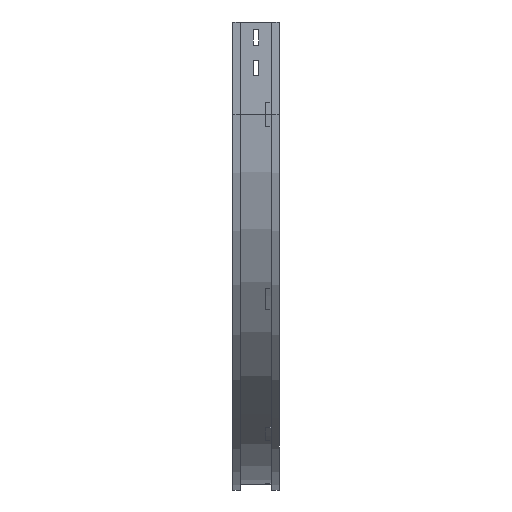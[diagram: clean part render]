
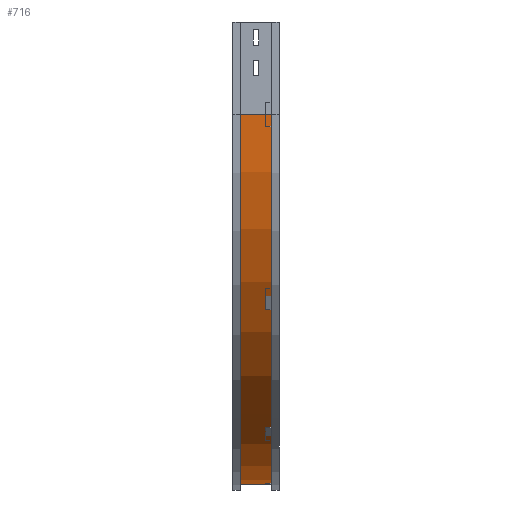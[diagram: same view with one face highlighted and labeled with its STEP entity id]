
A CAD part, left-side view. The second image highlights one B-rep face of the part: STEP entity #716.
In plain terms, the highlighted cylindrical face has radius 600 mm (diameter 1200 mm), a partial arc.
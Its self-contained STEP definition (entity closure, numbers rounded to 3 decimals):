
#25 = CARTESIAN_POINT ( 'NONE',  ( 609., 63., -750. ) ) ;
#185 = ORIENTED_EDGE ( 'NONE', *, *, #3232, .T. ) ;
#192 = CARTESIAN_POINT ( 'NONE',  ( 609., 12., -150. ) ) ;
#214 = DIRECTION ( 'NONE',  ( 0., 0., -1. ) ) ;
#231 = DIRECTION ( 'NONE',  ( 0., -1., 0. ) ) ;
#250 = CIRCLE ( 'NONE', #2157, 600. ) ;
#298 = CIRCLE ( 'NONE', #1939, 600. ) ;
#353 = CARTESIAN_POINT ( 'NONE',  ( 9., 12., -150. ) ) ;
#695 = CARTESIAN_POINT ( 'NONE',  ( 609., 0., -150. ) ) ;
#710 = EDGE_LOOP ( 'NONE', ( #1443, #2214, #3035, #185 ) ) ;
#716 = ADVANCED_FACE ( 'NONE', ( #1727 ), #2262, .T. ) ;
#835 = VERTEX_POINT ( 'NONE', #3181 ) ;
#867 = VECTOR ( 'NONE', #1391, 1000. ) ;
#1193 = LINE ( 'NONE', #353, #867 ) ;
#1208 = DIRECTION ( 'NONE',  ( -1., 0., 0. ) ) ;
#1224 = VERTEX_POINT ( 'NONE', #25 ) ;
#1265 = CARTESIAN_POINT ( 'NONE',  ( 609., 63., -150. ) ) ;
#1270 = VERTEX_POINT ( 'NONE', #1302 ) ;
#1279 = DIRECTION ( 'NONE',  ( -1., 0., 0. ) ) ;
#1302 = CARTESIAN_POINT ( 'NONE',  ( 9., 12., -150. ) ) ;
#1391 = DIRECTION ( 'NONE',  ( 0., -1., 0. ) ) ;
#1443 = ORIENTED_EDGE ( 'NONE', *, *, #3391, .F. ) ;
#1727 = FACE_OUTER_BOUND ( 'NONE', #710, .T. ) ;
#1748 = EDGE_CURVE ( 'NONE', #835, #1270, #1193, .T. ) ;
#1781 = DIRECTION ( 'NONE',  ( 0., -1., 0. ) ) ;
#1850 = EDGE_CURVE ( 'NONE', #835, #1224, #298, .T. ) ;
#1939 = AXIS2_PLACEMENT_3D ( 'NONE', #1265, #2597, #1279 ) ;
#2157 = AXIS2_PLACEMENT_3D ( 'NONE', #192, #1781, #1208 ) ;
#2170 = DIRECTION ( 'NONE',  ( 0., -1., 0. ) ) ;
#2214 = ORIENTED_EDGE ( 'NONE', *, *, #1748, .F. ) ;
#2262 = CYLINDRICAL_SURFACE ( 'NONE', #3187, 600. ) ;
#2321 = VERTEX_POINT ( 'NONE', #2325 ) ;
#2325 = CARTESIAN_POINT ( 'NONE',  ( 609., 12., -750. ) ) ;
#2597 = DIRECTION ( 'NONE',  ( 0., -1., 0. ) ) ;
#3003 = VECTOR ( 'NONE', #2170, 1000. ) ;
#3020 = CARTESIAN_POINT ( 'NONE',  ( 609., 12., -750. ) ) ;
#3035 = ORIENTED_EDGE ( 'NONE', *, *, #1850, .T. ) ;
#3181 = CARTESIAN_POINT ( 'NONE',  ( 9., 63., -150. ) ) ;
#3187 = AXIS2_PLACEMENT_3D ( 'NONE', #695, #231, #214 ) ;
#3232 = EDGE_CURVE ( 'NONE', #1224, #2321, #3247, .T. ) ;
#3247 = LINE ( 'NONE', #3020, #3003 ) ;
#3391 = EDGE_CURVE ( 'NONE', #1270, #2321, #250, .T. ) ;
